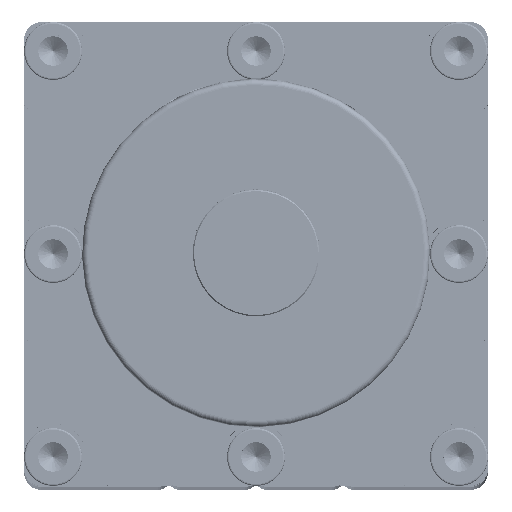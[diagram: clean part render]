
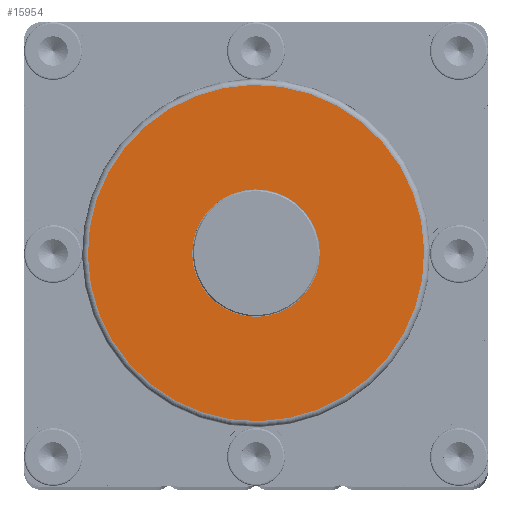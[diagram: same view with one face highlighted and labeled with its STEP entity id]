
A CAD part, top view. The second image highlights one B-rep face of the part: STEP entity #15954.
In plain terms, the highlighted planar face has unit normal (0, 0, 1) as drawn and (0, -1, 0) by its records, which use the part's own axes.
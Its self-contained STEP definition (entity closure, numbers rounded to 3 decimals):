
#2514 = VERTEX_POINT ( 'NONE', #17875 ) ;
#3460 = CIRCLE ( 'NONE', #39208, 29. ) ;
#4568 = DIRECTION ( 'NONE',  ( 0., 0., -1. ) ) ;
#4907 = PLANE ( 'NONE',  #45613 ) ;
#8560 = FACE_OUTER_BOUND ( 'NONE', #34645, .T. ) ;
#8701 = EDGE_CURVE ( 'NONE', #2514, #10758, #43039, .T. ) ;
#8776 = CARTESIAN_POINT ( 'NONE',  ( 0., 0., 0. ) ) ;
#10444 = ORIENTED_EDGE ( 'NONE', *, *, #49487, .F. ) ;
#10758 = VERTEX_POINT ( 'NONE', #42046 ) ;
#11762 = DIRECTION ( 'NONE',  ( 0., 0., 1. ) ) ;
#12279 = CARTESIAN_POINT ( 'NONE',  ( 0., 0., -11. ) ) ;
#13840 = CARTESIAN_POINT ( 'NONE',  ( 0., 0., 0. ) ) ;
#14618 = EDGE_LOOP ( 'NONE', ( #45792, #10444 ) ) ;
#14728 = AXIS2_PLACEMENT_3D ( 'NONE', #51510, #56784, #11762 ) ;
#15954 = ADVANCED_FACE ( 'NONE', ( #8560, #28987 ), #4907, .F. ) ;
#17875 = CARTESIAN_POINT ( 'NONE',  ( 0., 0., 29. ) ) ;
#20639 = EDGE_CURVE ( 'NONE', #10758, #2514, #3460, .T. ) ;
#23606 = DIRECTION ( 'NONE',  ( 0., -1., 0. ) ) ;
#25348 = AXIS2_PLACEMENT_3D ( 'NONE', #30244, #55845, #4568 ) ;
#28926 = VERTEX_POINT ( 'NONE', #12279 ) ;
#28987 = FACE_BOUND ( 'NONE', #14618, .T. ) ;
#30244 = CARTESIAN_POINT ( 'NONE',  ( 0., 0., 0. ) ) ;
#34233 = DIRECTION ( 'NONE',  ( 0., -1., 0. ) ) ;
#34645 = EDGE_LOOP ( 'NONE', ( #45430, #46944 ) ) ;
#39208 = AXIS2_PLACEMENT_3D ( 'NONE', #8776, #23606, #43626 ) ;
#39796 = AXIS2_PLACEMENT_3D ( 'NONE', #58547, #34233, #43075 ) ;
#41099 = CARTESIAN_POINT ( 'NONE',  ( 0., 0., 11. ) ) ;
#41884 = CIRCLE ( 'NONE', #39796, 11. ) ;
#42046 = CARTESIAN_POINT ( 'NONE',  ( 0., 0., -29. ) ) ;
#43039 = CIRCLE ( 'NONE', #14728, 29. ) ;
#43075 = DIRECTION ( 'NONE',  ( 0., 0., -1. ) ) ;
#43626 = DIRECTION ( 'NONE',  ( 0., 0., 1. ) ) ;
#44707 = DIRECTION ( 'NONE',  ( 0., 0., 1. ) ) ;
#45430 = ORIENTED_EDGE ( 'NONE', *, *, #8701, .T. ) ;
#45613 = AXIS2_PLACEMENT_3D ( 'NONE', #13840, #59836, #44707 ) ;
#45792 = ORIENTED_EDGE ( 'NONE', *, *, #57075, .F. ) ;
#46944 = ORIENTED_EDGE ( 'NONE', *, *, #20639, .T. ) ;
#49487 = EDGE_CURVE ( 'NONE', #51793, #28926, #41884, .T. ) ;
#51510 = CARTESIAN_POINT ( 'NONE',  ( 0., 0., 0. ) ) ;
#51793 = VERTEX_POINT ( 'NONE', #41099 ) ;
#54697 = CIRCLE ( 'NONE', #25348, 11. ) ;
#55845 = DIRECTION ( 'NONE',  ( 0., -1., 0. ) ) ;
#56784 = DIRECTION ( 'NONE',  ( 0., -1., 0. ) ) ;
#57075 = EDGE_CURVE ( 'NONE', #28926, #51793, #54697, .T. ) ;
#58547 = CARTESIAN_POINT ( 'NONE',  ( 0., 0., 0. ) ) ;
#59836 = DIRECTION ( 'NONE',  ( 0., 1., 0. ) ) ;
